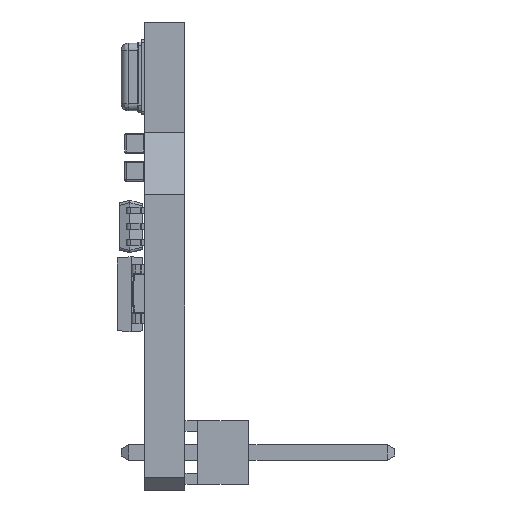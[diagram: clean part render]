
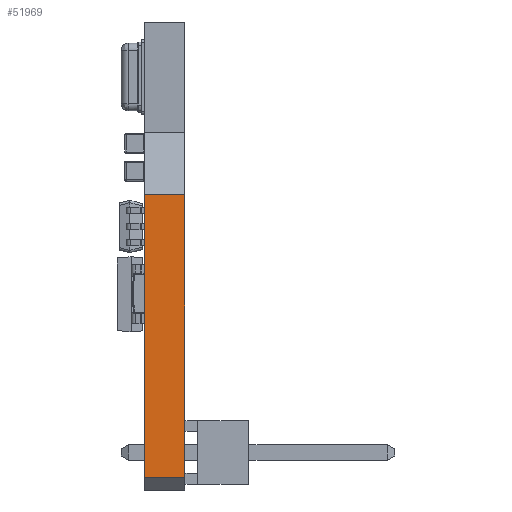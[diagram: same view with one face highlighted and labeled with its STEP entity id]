
A CAD part, left-side view. The second image highlights one B-rep face of the part: STEP entity #51969.
In plain terms, the highlighted planar face has unit normal (-1, 0, 0).
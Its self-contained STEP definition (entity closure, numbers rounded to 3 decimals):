
#7881 = VERTEX_POINT ( 'NONE', #30680 ) ;
#12074 = ORIENTED_EDGE ( 'NONE', *, *, #32231, .T. ) ;
#12602 = CARTESIAN_POINT ( 'NONE',  ( -8.15, 0., -6.65 ) ) ;
#12865 = CARTESIAN_POINT ( 'NONE',  ( -8.15, 1.6, 4.65 ) ) ;
#13600 = ORIENTED_EDGE ( 'NONE', *, *, #13871, .T. ) ;
#13871 = EDGE_CURVE ( 'NONE', #7881, #40508, #35075, .T. ) ;
#14968 = LINE ( 'NONE', #25074, #57264 ) ;
#16676 = CARTESIAN_POINT ( 'NONE',  ( -8.15, 1.6, 4.65 ) ) ;
#16753 = CARTESIAN_POINT ( 'NONE',  ( -8.15, 0., -7.15 ) ) ;
#18767 = EDGE_CURVE ( 'NONE', #21977, #36671, #59319, .T. ) ;
#18798 = DIRECTION ( 'NONE',  ( 0., -1., 0. ) ) ;
#19014 = CARTESIAN_POINT ( 'NONE',  ( -8.15, 1.6, -6.65 ) ) ;
#20761 = DIRECTION ( 'NONE',  ( 0., 1., 0. ) ) ;
#20823 = PLANE ( 'NONE',  #22493 ) ;
#21091 = ORIENTED_EDGE ( 'NONE', *, *, #57153, .F. ) ;
#21977 = VERTEX_POINT ( 'NONE', #42015 ) ;
#22493 = AXIS2_PLACEMENT_3D ( 'NONE', #50739, #31769, #26639 ) ;
#24588 = VECTOR ( 'NONE', #18798, 1000. ) ;
#25074 = CARTESIAN_POINT ( 'NONE',  ( -8.15, 1.6, -7.15 ) ) ;
#26639 = DIRECTION ( 'NONE',  ( 0., 0., -1. ) ) ;
#29138 = EDGE_LOOP ( 'NONE', ( #21091, #56542, #12074, #13600 ) ) ;
#30680 = CARTESIAN_POINT ( 'NONE',  ( -8.15, 0., 4.65 ) ) ;
#31769 = DIRECTION ( 'NONE',  ( 1., 0., 0. ) ) ;
#32231 = EDGE_CURVE ( 'NONE', #36671, #7881, #46400, .T. ) ;
#34914 = DIRECTION ( 'NONE',  ( 0., 0., 1. ) ) ;
#35075 = LINE ( 'NONE', #16676, #41275 ) ;
#36671 = VERTEX_POINT ( 'NONE', #12602 ) ;
#40508 = VERTEX_POINT ( 'NONE', #12865 ) ;
#41275 = VECTOR ( 'NONE', #20761, 1000. ) ;
#42015 = CARTESIAN_POINT ( 'NONE',  ( -8.15, 1.6, -6.65 ) ) ;
#46400 = LINE ( 'NONE', #16753, #56379 ) ;
#50167 = DIRECTION ( 'NONE',  ( 0., 0., 1. ) ) ;
#50739 = CARTESIAN_POINT ( 'NONE',  ( -8.15, 1.6, -7.15 ) ) ;
#51969 = ADVANCED_FACE ( 'NONE', ( #61632 ), #20823, .F. ) ;
#56379 = VECTOR ( 'NONE', #50167, 1000. ) ;
#56542 = ORIENTED_EDGE ( 'NONE', *, *, #18767, .T. ) ;
#57153 = EDGE_CURVE ( 'NONE', #21977, #40508, #14968, .T. ) ;
#57264 = VECTOR ( 'NONE', #34914, 1000. ) ;
#59319 = LINE ( 'NONE', #19014, #24588 ) ;
#61632 = FACE_OUTER_BOUND ( 'NONE', #29138, .T. ) ;
